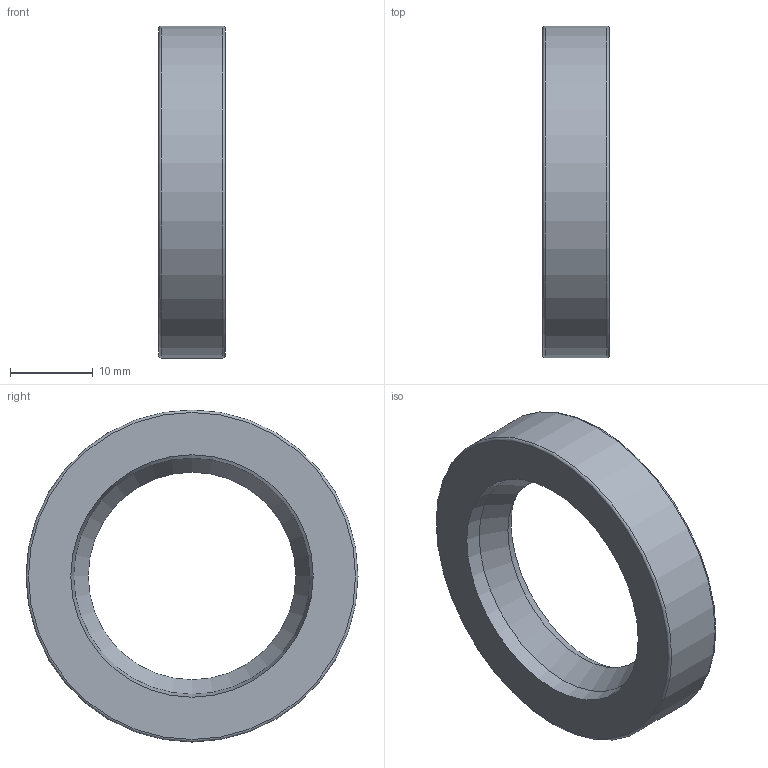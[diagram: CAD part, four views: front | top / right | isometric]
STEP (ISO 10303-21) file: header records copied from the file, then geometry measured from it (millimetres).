
FILE_DESCRIPTION(/* description */ ('오일-실'),/* implementation_level */ '2;1');
FILE_NAME(/* name */ '',/* time_stamp */ '2026-03-27T11:17:20+09:00',/* author */ ('jhkim'),/* organization */ (''),/* preprocessor_version */ 'ST-DEVELOPER v20.1',/* originating_system */ 'Autodesk Inventor 2026',/* authorisation */ '');
FILE_SCHEMA (('AUTOMOTIVE_DESIGN { 1 0 10303 214 3 1 1 }'));
Length unit declared in the file: millimetre
Products named in the file (1): 오일 실 25 40 8
Bounding box: 8 x 40 x 40 mm (x, y, z)
Volume: 2669 mm3; surface area: 4033.8 mm2
Topology: 1 solids, 1 shells, 15 faces, 31 edges, 20 vertices
Faces by surface type: torus 4, plane 4, cone 4, cylinder 3
Full cylindrical faces by diameter (mm): 29.2 x1, 37.5 x1, 40 x1
Entity records: 460 total; most frequent: DIRECTION 87, CARTESIAN_POINT 67, ORIENTED_EDGE 62, AXIS2_PLACEMENT_3D 40, EDGE_CURVE 31, CIRCLE 24, VERTEX_POINT 20, EDGE_LOOP 19
